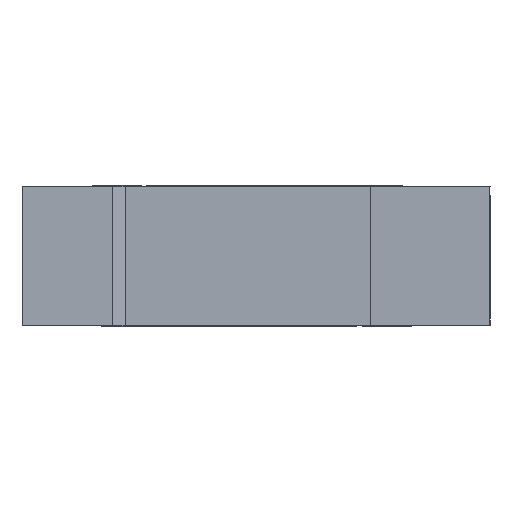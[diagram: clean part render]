
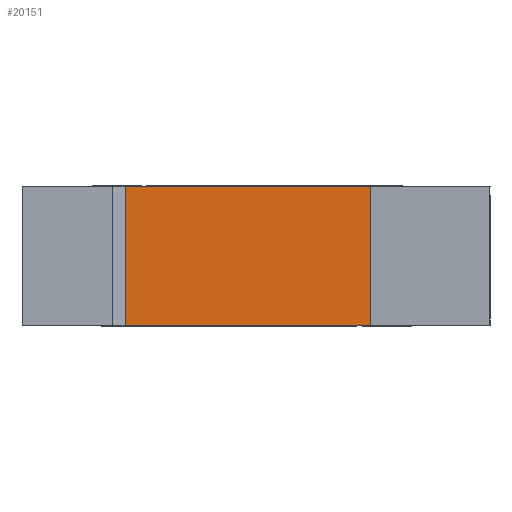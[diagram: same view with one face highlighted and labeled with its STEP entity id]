
A CAD part, front view. The second image highlights one B-rep face of the part: STEP entity #20151.
In plain terms, the highlighted planar face has unit normal (0, -1, 0).
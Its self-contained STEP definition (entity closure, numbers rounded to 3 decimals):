
#8997 = AXIS2_PLACEMENT_3D ( 'NONE', #9057, #9043, #9036 ) ;
#8998 = CARTESIAN_POINT ( 'NONE',  ( -23.803, -107.23, 28.369 ) ) ;
#8999 = LINE ( 'NONE', #8998, #9047 ) ;
#9036 = DIRECTION ( 'NONE',  ( 0., 0., 1. ) ) ;
#9038 = PLANE ( 'NONE',  #8997 ) ;
#9039 = DIRECTION ( 'NONE',  ( 0., 0., -1. ) ) ;
#9040 = VECTOR ( 'NONE', #9039, 1000. ) ;
#9041 = CARTESIAN_POINT ( 'NONE',  ( 20.5, -107.23, 11.25 ) ) ;
#9042 = LINE ( 'NONE', #9041, #9040 ) ;
#9043 = DIRECTION ( 'NONE',  ( 0., 1., 0. ) ) ;
#9046 = DIRECTION ( 'NONE',  ( 0., 0., -1. ) ) ;
#9047 = VECTOR ( 'NONE', #9046, 1000. ) ;
#9048 = FACE_OUTER_BOUND ( 'NONE', #19954, .T. ) ;
#9057 = CARTESIAN_POINT ( 'NONE',  ( -37.79, -107.23, 11.25 ) ) ;
#19954 = EDGE_LOOP ( 'NONE', ( #20027, #20153, #20020, #25048 ) ) ;
#20020 = ORIENTED_EDGE ( 'NONE', *, *, #20148, .F. ) ;
#20027 = ORIENTED_EDGE ( 'NONE', *, *, #20146, .T. ) ;
#20146 = EDGE_CURVE ( 'NONE', #23547, #74238, #8999, .T. ) ;
#20148 = EDGE_CURVE ( 'NONE', #23443, #74777, #9042, .T. ) ;
#20151 = ADVANCED_FACE ( 'NONE', ( #9048 ), #9038, .F. ) ;
#20153 = ORIENTED_EDGE ( 'NONE', *, *, #75796, .T. ) ;
#22985 = CARTESIAN_POINT ( 'NONE',  ( 20.5, -107.23, 11.25 ) ) ;
#23443 = VERTEX_POINT ( 'NONE', #22985 ) ;
#23538 = CARTESIAN_POINT ( 'NONE',  ( -23.803, -107.23, 11.25 ) ) ;
#23547 = VERTEX_POINT ( 'NONE', #23538 ) ;
#23663 = EDGE_CURVE ( 'NONE', #23547, #23443, #23853, .T. ) ;
#23853 = LINE ( 'NONE', #23941, #23936 ) ;
#23935 = DIRECTION ( 'NONE',  ( 1., 0., 0. ) ) ;
#23936 = VECTOR ( 'NONE', #23935, 1000. ) ;
#23941 = CARTESIAN_POINT ( 'NONE',  ( -37.79, -107.23, 11.25 ) ) ;
#25048 = ORIENTED_EDGE ( 'NONE', *, *, #23663, .F. ) ;
#74238 = VERTEX_POINT ( 'NONE', #111399 ) ;
#74777 = VERTEX_POINT ( 'NONE', #111409 ) ;
#75796 = EDGE_CURVE ( 'NONE', #74238, #74777, #111549, .T. ) ;
#111399 = CARTESIAN_POINT ( 'NONE',  ( -23.803, -107.23, -11.25 ) ) ;
#111409 = CARTESIAN_POINT ( 'NONE',  ( 20.5, -107.23, -11.25 ) ) ;
#111546 = DIRECTION ( 'NONE',  ( 1., 0., 0. ) ) ;
#111547 = VECTOR ( 'NONE', #111546, 1000. ) ;
#111548 = CARTESIAN_POINT ( 'NONE',  ( -37.79, -107.23, -11.25 ) ) ;
#111549 = LINE ( 'NONE', #111548, #111547 ) ;
